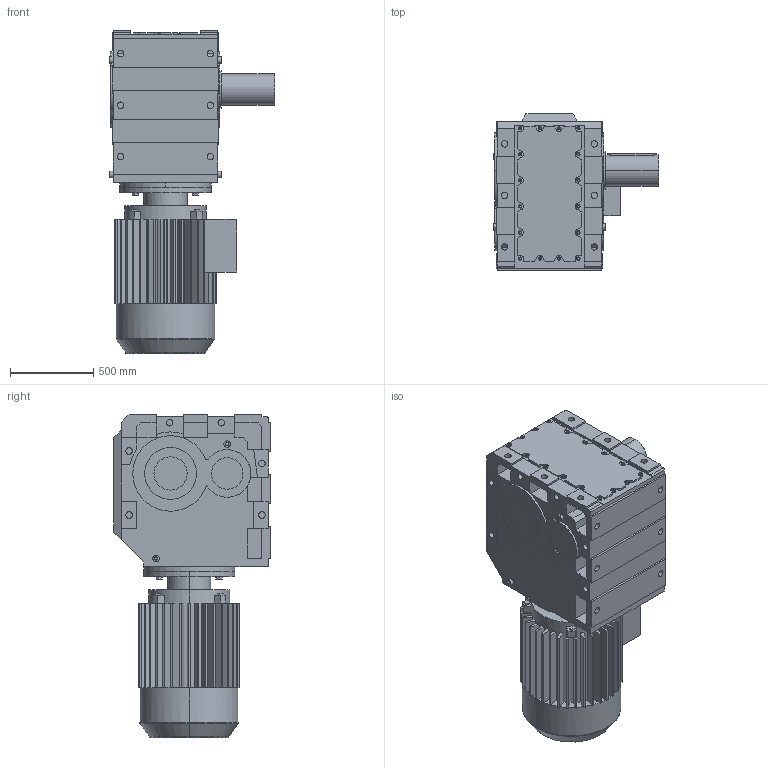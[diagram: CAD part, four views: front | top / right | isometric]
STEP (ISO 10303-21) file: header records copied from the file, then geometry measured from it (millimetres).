
FILE_DESCRIPTION(('Open CASCADE Model'),'2;1');
FILE_NAME('Open CASCADE Shape Model','2021-05-18T14:42:40',('Author'),( 'Open CASCADE'),'Open CASCADE STEP processor 6.3','Open CASCADE 6.3' ,'Unknown');
FILE_SCHEMA(('AUTOMOTIVE_DESIGN_CC2 { 1 2 10303 214 -1 1 5 4 }'));
Length unit declared in the file: millimetre
Products named in the file (4): 1_K187DV315S-A; K167‵187_187.step; 萇儂_550-DV315S-999-1210-612-430.step; す瑩妗陑粣K_187.step
Assembly tree (3 placements, depth 2):
  1_K187DV315S-A
    K167‵187_187.step
    萇儂_550-DV315S-999-1210-612-430.step
    す瑩妗陑粣K_187.step
Bounding box: 994 x 942 x 1945 mm (x, y, z)
Volume: 748301378.6 mm3; surface area: 10563419.8 mm2
Topology: 3 solids, 3 shells, 914 faces, 2364 edges, 1539 vertices
Faces by surface type: plane 613, cylinder 289, cone 8, torus 4
Entity records: 59463 total; most frequent: CARTESIAN_POINT 14139, DIRECTION 7913, ORIENTED_EDGE 4724, PCURVE 4724, DEFINITIONAL_REPRESENTATION 4724, LINE 4234, VECTOR 4234, EDGE_CURVE 2362
